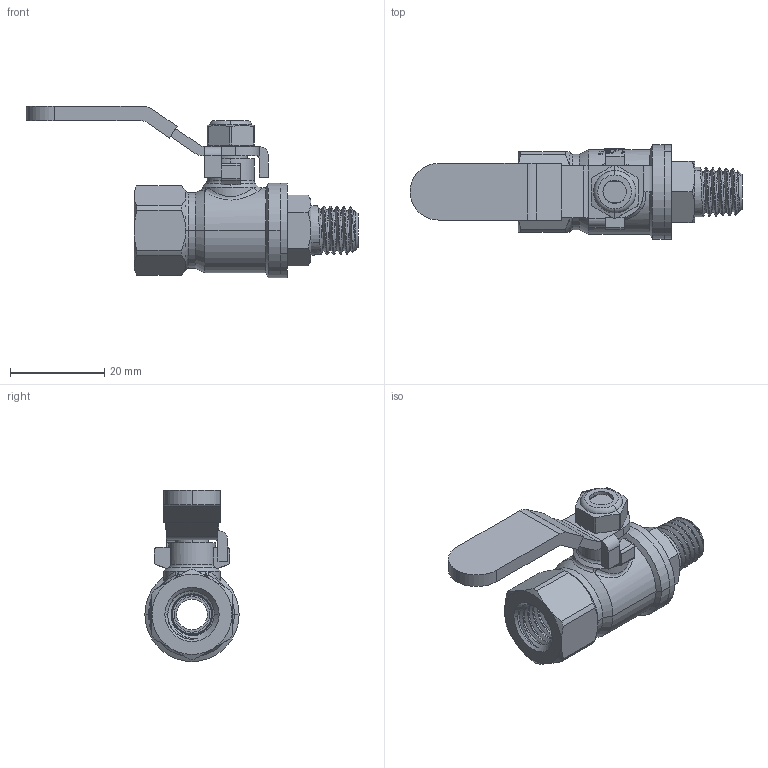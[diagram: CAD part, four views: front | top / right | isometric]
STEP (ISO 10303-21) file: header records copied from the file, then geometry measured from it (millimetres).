
FILE_DESCRIPTION(('Open CASCADE Model'),'2;1');
FILE_NAME('Open CASCADE Shape Model','2021-12-15T12:07:27',('Author'),( 'Open CASCADE'),'Open CASCADE STEP processor 7.3','Open CASCADE 7.3' ,'Unknown');
FILE_SCHEMA(('AUTOMOTIVE_DESIGN { 1 0 10303 214 1 1 1 1 }'));
Length unit declared in the file: millimetre
Products named in the file (11): Open CASCADE STEP translator 7.3 1; Open CASCADE STEP translator 7.3 1.1; Open CASCADE STEP translator 7.3 1.2; Open CASCADE STEP translator 7.3 1.3; Open CASCADE STEP translator 7.3 1.4; Open CASCADE STEP translator 7.3 1.5; Open CASCADE STEP translator 7.3 1.6; Open CASCADE STEP translator 7.3 1.7; Open CASCADE STEP translator 7.3 1.8; Open CASCADE STEP translator 7.3 1.9; Open CASCADE STEP translator 7.3 1.10
Assembly tree (10 placements, depth 2):
  Open CASCADE STEP translator 7.3 1
    Open CASCADE STEP translator 7.3 1.1
    Open CASCADE STEP translator 7.3 1.2
    Open CASCADE STEP translator 7.3 1.3
    Open CASCADE STEP translator 7.3 1.4
    Open CASCADE STEP translator 7.3 1.5
    Open CASCADE STEP translator 7.3 1.6
    Open CASCADE STEP translator 7.3 1.7
    Open CASCADE STEP translator 7.3 1.8
    Open CASCADE STEP translator 7.3 1.9
    Open CASCADE STEP translator 7.3 1.10
Bounding box: 70.43 x 20 x 36.3 mm (x, y, z)
Volume: 9687.3 mm3; surface area: 10325.7 mm2
Topology: 10 solids, 10 shells, 532 faces, 1370 edges, 883 vertices
Faces by surface type: cylinder 145, bspline 143, plane 125, cone 77, torus 34, sphere 6, revolution 2
Entity records: 95205 total; most frequent: CARTESIAN_POINT 71494, DIRECTION 3238, ORIENTED_EDGE 2736, PCURVE 2736, DEFINITIONAL_REPRESENTATION 2736, B_SPLINE_CURVE_WITH_KNOTS 1771, LINE 1644, VECTOR 1644
